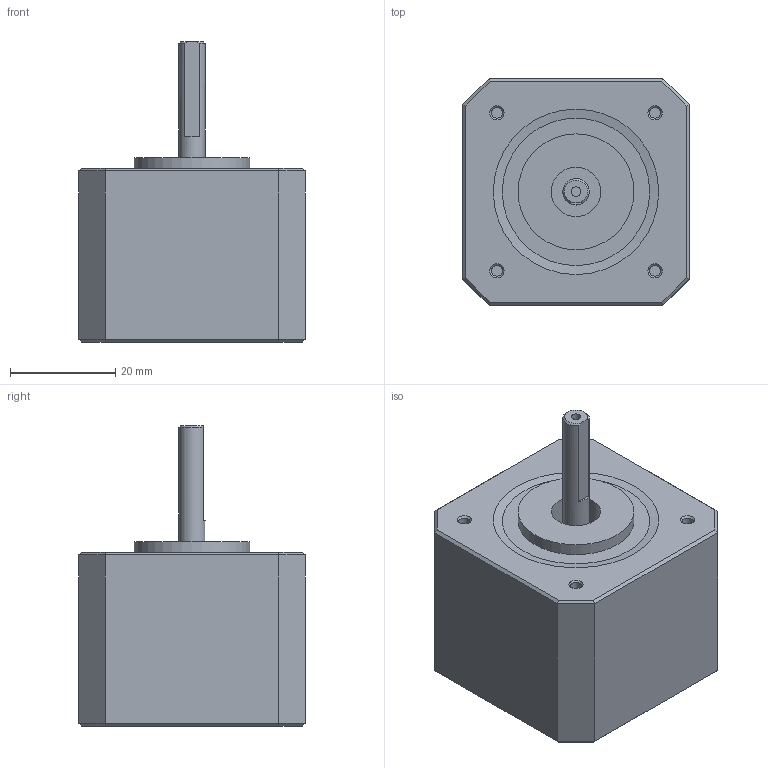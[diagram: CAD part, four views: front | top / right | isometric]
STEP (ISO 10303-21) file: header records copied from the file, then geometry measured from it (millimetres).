
FILE_DESCRIPTION(/* description */ ('STEP AP242 Edition 2','CAx-IF Rec.Pracs.---Representation and Presentation of Product Manufacturing Information (PMI)---4.0---2014-10-13','CAx-IF Rec.Pracs.---3D Tessellated Geometry---0.4---2014-09-14','2;1','CAx-IF Rec.Pracs.---User Defined Attributes---1.5---2016-08-15'),/* implementation_level */ '2;1');
FILE_NAME(/* name */ 'Stepper Motor',/* time_stamp */ '2025-11-29T19:54:20Z',/* author */ (''),/* organization */ (''),/* preprocessor_version */ 'ST-DEVELOPER v20',/* originating_system */ 'ONSHAPE BY PTC INC, 1.207',/* authorisation */ ' ');
FILE_SCHEMA (('AP242_MANAGED_MODEL_BASED_3D_ENGINEERING_MIM_LF { 1 0 10303 442 3 1 4 }'));
Length unit declared in the file: metre
Products named in the file (2): Stepper Motor; shaft
Assembly tree (1 placements, depth 2):
  Stepper Motor
    shaft
Bounding box: 43 x 43 x 57 mm (x, y, z)
Volume: 60011.8 mm3; surface area: 9755.6 mm2
Topology: 1 solids, 1 shells, 51 faces, 100 edges, 60 vertices
Faces by surface type: plane 37, cylinder 8, cone 6
Full cylindrical faces by diameter (mm): 1.8 x1, 2.075 x4, 5 x1, 9.4 x1, 22 x1
Entity records: 1243 total; most frequent: DIRECTION 214, CARTESIAN_POINT 202, ORIENTED_EDGE 172, EDGE_CURVE 86, AXIS2_PLACEMENT_3D 77, EDGE_LOOP 73, FACE_BOUND 73, LINE 60
